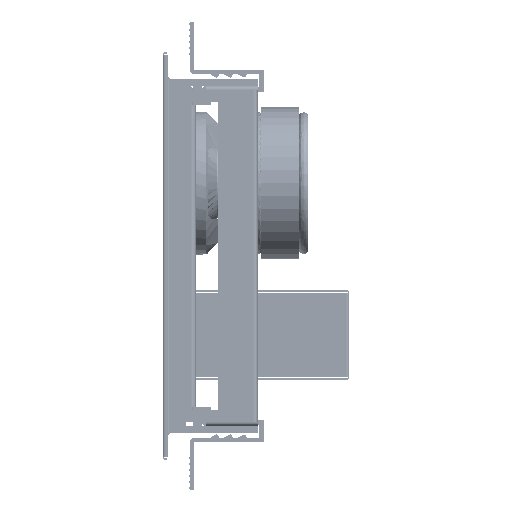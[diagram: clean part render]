
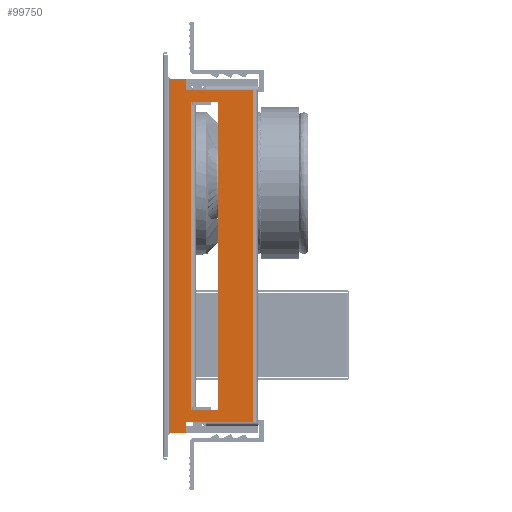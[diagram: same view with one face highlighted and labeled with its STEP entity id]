
A CAD part, left-side view. The second image highlights one B-rep face of the part: STEP entity #99750.
In plain terms, the highlighted planar face has unit normal (-1, 0, 0) as drawn and (0, 0, 1) by its records, which use the part's own axes.
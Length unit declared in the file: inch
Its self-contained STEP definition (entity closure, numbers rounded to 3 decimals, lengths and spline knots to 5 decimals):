
#173 = VERTEX_POINT ( 'NONE', #111397 ) ;
#329 = DIRECTION ( 'NONE',  ( 1., 0., 0. ) ) ;
#492 = EDGE_CURVE ( 'NONE', #14944, #46611, #26511, .T. ) ;
#1184 = EDGE_CURVE ( 'NONE', #91454, #32002, #61736, .T. ) ;
#3151 = VECTOR ( 'NONE', #81036, 39.37008 ) ;
#3404 = VECTOR ( 'NONE', #95270, 39.37008 ) ;
#4427 = CARTESIAN_POINT ( 'NONE',  ( -3.2, 0.818, 0. ) ) ;
#6636 = VECTOR ( 'NONE', #63670, 39.37008 ) ;
#7538 = CARTESIAN_POINT ( 'NONE',  ( 3.6875, 1.48, 0. ) ) ;
#7603 = ORIENTED_EDGE ( 'NONE', *, *, #99466, .T. ) ;
#9623 = CARTESIAN_POINT ( 'NONE',  ( -3.1375, 1.381, 0. ) ) ;
#11185 = DIRECTION ( 'NONE',  ( 0., -1., 0. ) ) ;
#12850 = VERTEX_POINT ( 'NONE', #66800 ) ;
#13042 = LINE ( 'NONE', #129248, #86550 ) ;
#13158 = CARTESIAN_POINT ( 'NONE',  ( -3.4465, 1.072, 0. ) ) ;
#13997 = CARTESIAN_POINT ( 'NONE',  ( 3.2, 1.381, 0. ) ) ;
#14278 = ORIENTED_EDGE ( 'NONE', *, *, #115746, .T. ) ;
#14368 = CARTESIAN_POINT ( 'NONE',  ( 3.4465, 1.072, 0. ) ) ;
#14944 = VERTEX_POINT ( 'NONE', #64397 ) ;
#15662 = DIRECTION ( 'NONE',  ( 0., 1., 0. ) ) ;
#16271 = VECTOR ( 'NONE', #89214, 39.37008 ) ;
#17165 = EDGE_CURVE ( 'NONE', #18515, #89574, #110050, .T. ) ;
#18515 = VERTEX_POINT ( 'NONE', #68462 ) ;
#21443 = ORIENTED_EDGE ( 'NONE', *, *, #123110, .T. ) ;
#22841 = ORIENTED_EDGE ( 'NONE', *, *, #109919, .T. ) ;
#23242 = VERTEX_POINT ( 'NONE', #64044 ) ;
#24947 = CARTESIAN_POINT ( 'NONE',  ( 3.4465, 1.48, 0. ) ) ;
#24999 = ORIENTED_EDGE ( 'NONE', *, *, #114336, .F. ) ;
#25241 = DIRECTION ( 'NONE',  ( 0., 1., 0. ) ) ;
#25816 = EDGE_CURVE ( 'NONE', #111759, #91454, #73496, .T. ) ;
#26511 = LINE ( 'NONE', #13997, #31174 ) ;
#26941 = EDGE_CURVE ( 'NONE', #57344, #23242, #119635, .T. ) ;
#27141 = CARTESIAN_POINT ( 'NONE',  ( -3.4465, 0.091, 0. ) ) ;
#27788 = DIRECTION ( 'NONE',  ( 1., 0., 0. ) ) ;
#29551 = CARTESIAN_POINT ( 'NONE',  ( -3.2, 1.381, 0. ) ) ;
#29789 = LINE ( 'NONE', #100487, #99489 ) ;
#30873 = DIRECTION ( 'NONE',  ( 0., 0., 1. ) ) ;
#31174 = VECTOR ( 'NONE', #66791, 39.37008 ) ;
#31770 = ORIENTED_EDGE ( 'NONE', *, *, #25816, .T. ) ;
#32002 = VERTEX_POINT ( 'NONE', #121318 ) ;
#38347 = ORIENTED_EDGE ( 'NONE', *, *, #54049, .F. ) ;
#38811 = ORIENTED_EDGE ( 'NONE', *, *, #17165, .T. ) ;
#43054 = ORIENTED_EDGE ( 'NONE', *, *, #123006, .T. ) ;
#44725 = CARTESIAN_POINT ( 'NONE',  ( -3.4465, 1.48, 0. ) ) ;
#44975 = LINE ( 'NONE', #105752, #61806 ) ;
#46611 = VERTEX_POINT ( 'NONE', #89243 ) ;
#49551 = CARTESIAN_POINT ( 'NONE',  ( -3.6875, 1.839, 0. ) ) ;
#50547 = ORIENTED_EDGE ( 'NONE', *, *, #126215, .T. ) ;
#51310 = PLANE ( 'NONE',  #84438 ) ;
#51982 = CARTESIAN_POINT ( 'NONE',  ( 0., 0., 0. ) ) ;
#52527 = CARTESIAN_POINT ( 'NONE',  ( -3.2, 1.381, 0. ) ) ;
#53091 = VECTOR ( 'NONE', #25241, 39.37008 ) ;
#54049 = EDGE_CURVE ( 'NONE', #18515, #129325, #44975, .T. ) ;
#54947 = EDGE_CURVE ( 'NONE', #129325, #82882, #63540, .T. ) ;
#57344 = VERTEX_POINT ( 'NONE', #44725 ) ;
#59589 = VECTOR ( 'NONE', #120729, 39.37008 ) ;
#60759 = DIRECTION ( 'NONE',  ( 0., -1., 0. ) ) ;
#60992 = CARTESIAN_POINT ( 'NONE',  ( -3.6875, 1.839, 0. ) ) ;
#61218 = LINE ( 'NONE', #101530, #3151 ) ;
#61736 = LINE ( 'NONE', #113902, #6636 ) ;
#61783 = VERTEX_POINT ( 'NONE', #60992 ) ;
#61806 = VECTOR ( 'NONE', #87229, 39.37008 ) ;
#61859 = ORIENTED_EDGE ( 'NONE', *, *, #492, .F. ) ;
#63540 = LINE ( 'NONE', #124990, #112652 ) ;
#63670 = DIRECTION ( 'NONE',  ( 0., 1., 0. ) ) ;
#64044 = CARTESIAN_POINT ( 'NONE',  ( -3.4465, 1.072, 0. ) ) ;
#64397 = CARTESIAN_POINT ( 'NONE',  ( 3.2, 0.818, 0. ) ) ;
#66791 = DIRECTION ( 'NONE',  ( 0., 1., 0. ) ) ;
#66800 = CARTESIAN_POINT ( 'NONE',  ( 3.4465, 0.091, 0. ) ) ;
#67438 = CARTESIAN_POINT ( 'NONE',  ( 3.1375, 1.381, 0. ) ) ;
#68462 = CARTESIAN_POINT ( 'NONE',  ( -3.1375, 1.381, 0. ) ) ;
#70479 = LINE ( 'NONE', #29551, #59589 ) ;
#72398 = VERTEX_POINT ( 'NONE', #128254 ) ;
#73496 = LINE ( 'NONE', #103252, #3404 ) ;
#75466 = VERTEX_POINT ( 'NONE', #14368 ) ;
#78694 = DIRECTION ( 'NONE',  ( -1., 0., 0. ) ) ;
#79062 = CARTESIAN_POINT ( 'NONE',  ( -3.5375, 1.48, 0. ) ) ;
#81036 = DIRECTION ( 'NONE',  ( 1., 0., 0. ) ) ;
#82337 = FACE_OUTER_BOUND ( 'NONE', #91009, .T. ) ;
#82502 = LINE ( 'NONE', #13158, #112110 ) ;
#82882 = VERTEX_POINT ( 'NONE', #4427 ) ;
#84438 = AXIS2_PLACEMENT_3D ( 'NONE', #51982, #30873, #111463 ) ;
#84500 = EDGE_CURVE ( 'NONE', #72398, #57344, #98255, .T. ) ;
#86145 = EDGE_CURVE ( 'NONE', #82882, #14944, #61218, .T. ) ;
#86550 = VECTOR ( 'NONE', #15662, 39.37008 ) ;
#86796 = VECTOR ( 'NONE', #329, 39.37008 ) ;
#87229 = DIRECTION ( 'NONE',  ( -1., 0., 0. ) ) ;
#88422 = ORIENTED_EDGE ( 'NONE', *, *, #84500, .T. ) ;
#89214 = DIRECTION ( 'NONE',  ( 0., -1., 0. ) ) ;
#89243 = CARTESIAN_POINT ( 'NONE',  ( 3.2, 1.381, 0. ) ) ;
#89482 = VECTOR ( 'NONE', #60759, 39.37008 ) ;
#89574 = VERTEX_POINT ( 'NONE', #67438 ) ;
#91009 = EDGE_LOOP ( 'NONE', ( #88422, #108429, #7603, #50547, #22841, #43054, #31770, #106180, #21443, #14278 ) ) ;
#91443 = VECTOR ( 'NONE', #119414, 39.37008 ) ;
#91454 = VERTEX_POINT ( 'NONE', #7538 ) ;
#93933 = DIRECTION ( 'NONE',  ( 0., -1., 0. ) ) ;
#95270 = DIRECTION ( 'NONE',  ( 1., 0., 0. ) ) ;
#95856 = LINE ( 'NONE', #27141, #101927 ) ;
#97244 = ORIENTED_EDGE ( 'NONE', *, *, #86145, .F. ) ;
#97313 = ORIENTED_EDGE ( 'NONE', *, *, #54947, .F. ) ;
#98255 = LINE ( 'NONE', #79062, #91443 ) ;
#99466 = EDGE_CURVE ( 'NONE', #23242, #173, #82502, .T. ) ;
#99489 = VECTOR ( 'NONE', #78694, 39.37008 ) ;
#99750 = ADVANCED_FACE ( 'NONE', ( #123993, #82337 ), #51310, .T. ) ;
#100487 = CARTESIAN_POINT ( 'NONE',  ( -3.4465, 1.839, 0. ) ) ;
#101530 = CARTESIAN_POINT ( 'NONE',  ( -3.2, 0.818, 0. ) ) ;
#101927 = VECTOR ( 'NONE', #27788, 39.37008 ) ;
#103252 = CARTESIAN_POINT ( 'NONE',  ( 3.5375, 1.48, 0. ) ) ;
#105752 = CARTESIAN_POINT ( 'NONE',  ( -3.2, 1.381, 0. ) ) ;
#105834 = CARTESIAN_POINT ( 'NONE',  ( 3.4465, 1.839, 0. ) ) ;
#106180 = ORIENTED_EDGE ( 'NONE', *, *, #1184, .T. ) ;
#107230 = EDGE_LOOP ( 'NONE', ( #97313, #38347, #38811, #24999, #61859, #97244 ) ) ;
#108429 = ORIENTED_EDGE ( 'NONE', *, *, #26941, .T. ) ;
#109919 = EDGE_CURVE ( 'NONE', #12850, #75466, #13042, .T. ) ;
#110050 = LINE ( 'NONE', #9623, #86796 ) ;
#111397 = CARTESIAN_POINT ( 'NONE',  ( -3.4465, 0.091, 0. ) ) ;
#111463 = DIRECTION ( 'NONE',  ( 1., 0., 0. ) ) ;
#111759 = VERTEX_POINT ( 'NONE', #24947 ) ;
#112110 = VECTOR ( 'NONE', #11185, 39.37008 ) ;
#112652 = VECTOR ( 'NONE', #93933, 39.37008 ) ;
#113902 = CARTESIAN_POINT ( 'NONE',  ( 3.6875, 1.839, 0. ) ) ;
#114336 = EDGE_CURVE ( 'NONE', #46611, #89574, #70479, .T. ) ;
#115746 = EDGE_CURVE ( 'NONE', #61783, #72398, #119625, .T. ) ;
#118363 = LINE ( 'NONE', #105834, #53091 ) ;
#119414 = DIRECTION ( 'NONE',  ( 1., 0., 0. ) ) ;
#119625 = LINE ( 'NONE', #49551, #89482 ) ;
#119635 = LINE ( 'NONE', #120919, #16271 ) ;
#120729 = DIRECTION ( 'NONE',  ( -1., 0., 0. ) ) ;
#120919 = CARTESIAN_POINT ( 'NONE',  ( -3.4465, 1.839, 0. ) ) ;
#121318 = CARTESIAN_POINT ( 'NONE',  ( 3.6875, 1.839, 0. ) ) ;
#123006 = EDGE_CURVE ( 'NONE', #75466, #111759, #118363, .T. ) ;
#123110 = EDGE_CURVE ( 'NONE', #32002, #61783, #29789, .T. ) ;
#123993 = FACE_BOUND ( 'NONE', #107230, .T. ) ;
#124990 = CARTESIAN_POINT ( 'NONE',  ( -3.2, 1.381, 0. ) ) ;
#126215 = EDGE_CURVE ( 'NONE', #173, #12850, #95856, .T. ) ;
#128254 = CARTESIAN_POINT ( 'NONE',  ( -3.6875, 1.48, 0. ) ) ;
#129248 = CARTESIAN_POINT ( 'NONE',  ( 3.4465, 1.839, 0. ) ) ;
#129325 = VERTEX_POINT ( 'NONE', #52527 ) ;
